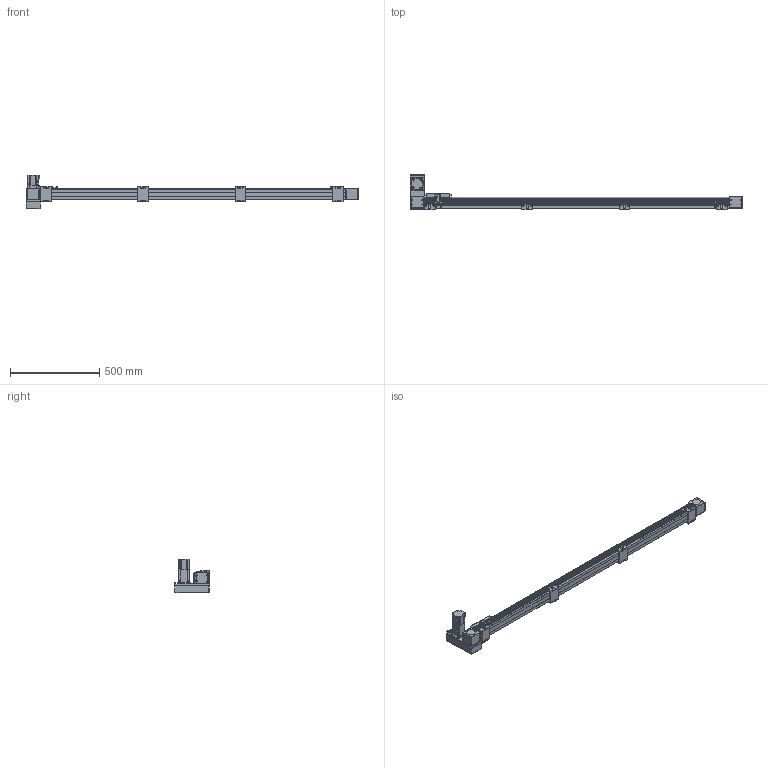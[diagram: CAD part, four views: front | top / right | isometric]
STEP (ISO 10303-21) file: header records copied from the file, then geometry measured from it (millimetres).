
FILE_DESCRIPTION(/* description */ ('STEP AP214'),/* implementation_level */ '2;1');
FILE_NAME(/* name */ 'SK60-P13-S1550-LU-T40-C1-N(0)',/* time_stamp */ '2023-04-06T04:48:05+02:00',/* author */ ('License CC BY-ND 4.0'),/* organization */ ('CADENAS'),/* preprocessor_version */ 'ST-DEVELOPER v19.3',/* originating_system */ 'PARTsolutions',/* authorisation */ ' ');
FILE_SCHEMA (('AUTOMOTIVE_DESIGN {1 0 10303 214 3 1 1}'));
Length unit declared in the file: millimetre
Products named in the file (10): SK60-P13-S1550-LU-T40-C1-N(0); PSC140-sensor; SK60-S450_seat; SK60-S450-BL-C1_slider; SK60_body3; SK60_body6; SK60-BL_body2; T40-p1; SK60-LU_fb; SK60-S1550-LU-C1_body
Assembly tree (18 placements, depth 2):
  SK60-P13-S1550-LU-T40-C1-N(0)
    PSC140-sensor  x3
    SK60-S450_seat  x4
    SK60-S450-BL-C1_slider
    SK60_body3  x3
    SK60_body6  x2
    SK60-BL_body2  x2
    T40-p1
    SK60-LU_fb
    SK60-S1550-LU-C1_body
Bounding box: 1855.5 x 201 x 189.7 mm (x, y, z)
Volume: 7529958.4 mm3; surface area: 921394.8 mm2
Topology: 18 solids, 18 shells, 898 faces, 2244 edges, 1477 vertices
Faces by surface type: plane 572, cylinder 294, cone 30, torus 2
Full cylindrical faces by diameter (mm): 2.8 x3, 3.3 x4, 4 x2, 4.5 x30, 4.6 x3, 4.917 x24, 5 x6, 5.478 x4, 5.5 x27, 6.5 x8, 7 x2, 8 x4, 8.5 x4, 9.988 x4, 10 x16, 14 x1, 47 x3, 50 x2
Entity records: 18671 total; most frequent: DIRECTION 3188, CARTESIAN_POINT 3152, ORIENTED_EDGE 2940, EDGE_CURVE 1470, AXIS2_PLACEMENT_3D 1070, LINE 1048, VECTOR 1048, VERTEX_POINT 1034
